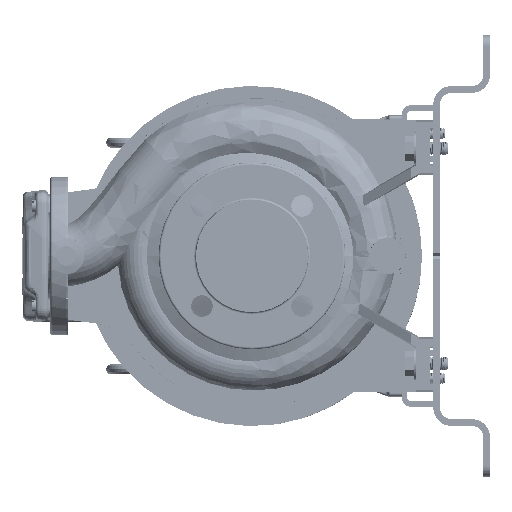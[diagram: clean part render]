
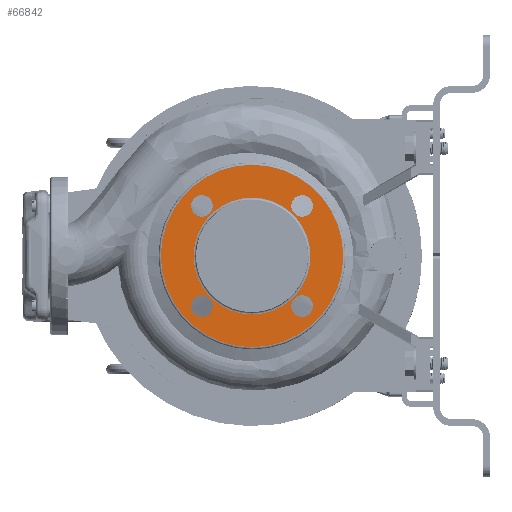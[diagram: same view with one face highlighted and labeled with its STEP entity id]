
A CAD part, left-side view. The second image highlights one B-rep face of the part: STEP entity #66842.
In plain terms, the highlighted planar face has unit normal (-1, 0, 0).
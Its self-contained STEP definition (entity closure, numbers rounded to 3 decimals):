
#1223 = EDGE_LOOP ( 'NONE', ( #149217, #159434 ) ) ;
#1715 = AXIS2_PLACEMENT_3D ( 'NONE', #159250, #184959, #44359 ) ;
#2583 = CARTESIAN_POINT ( 'NONE',  ( -114.905, 125.186, 358.538 ) ) ;
#4590 = DIRECTION ( 'NONE',  ( -1., 0., 0. ) ) ;
#5026 = CIRCLE ( 'NONE', #29267, 80.5 ) ;
#5212 = AXIS2_PLACEMENT_3D ( 'NONE', #135622, #4590, #52036 ) ;
#5546 = ORIENTED_EDGE ( 'NONE', *, *, #175534, .F. ) ;
#6673 = AXIS2_PLACEMENT_3D ( 'NONE', #127612, #69747, #139941 ) ;
#7199 = FACE_BOUND ( 'NONE', #1223, .T. ) ;
#7547 = ORIENTED_EDGE ( 'NONE', *, *, #137613, .F. ) ;
#9240 = CARTESIAN_POINT ( 'NONE',  ( -114.905, 169.38, 314.344 ) ) ;
#9351 = CARTESIAN_POINT ( 'NONE',  ( -114.905, 115.686, 270.15 ) ) ;
#10959 = ORIENTED_EDGE ( 'NONE', *, *, #140350, .F. ) ;
#11175 = EDGE_LOOP ( 'NONE', ( #31072, #7547 ) ) ;
#11625 = VERTEX_POINT ( 'NONE', #110824 ) ;
#12388 = DIRECTION ( 'NONE',  ( 0., 0., -1. ) ) ;
#15288 = DIRECTION ( 'NONE',  ( -1., 0., 0. ) ) ;
#15363 = ORIENTED_EDGE ( 'NONE', *, *, #85586, .F. ) ;
#15424 = EDGE_LOOP ( 'NONE', ( #169554, #124502 ) ) ;
#16763 = CARTESIAN_POINT ( 'NONE',  ( -114.905, 115.686, 358.538 ) ) ;
#17019 = VERTEX_POINT ( 'NONE', #9351 ) ;
#18454 = EDGE_CURVE ( 'NONE', #163283, #65936, #181130, .T. ) ;
#18724 = CIRCLE ( 'NONE', #6673, 9.5 ) ;
#20685 = DIRECTION ( 'NONE',  ( -1., 0., 0. ) ) ;
#21438 = FACE_BOUND ( 'NONE', #76475, .T. ) ;
#25124 = DIRECTION ( 'NONE',  ( 1., 0., 0. ) ) ;
#29267 = AXIS2_PLACEMENT_3D ( 'NONE', #9240, #20685, #150788 ) ;
#31072 = ORIENTED_EDGE ( 'NONE', *, *, #81771, .F. ) ;
#31689 = DIRECTION ( 'NONE',  ( 0., 0., 1. ) ) ;
#32350 = CARTESIAN_POINT ( 'NONE',  ( -114.905, 117.88, 314.344 ) ) ;
#32840 = CARTESIAN_POINT ( 'NONE',  ( -114.905, 204.075, 358.538 ) ) ;
#33560 = CARTESIAN_POINT ( 'NONE',  ( -114.905, 169.38, 314.344 ) ) ;
#37264 = DIRECTION ( 'NONE',  ( -1., 0., 0. ) ) ;
#37569 = FACE_BOUND ( 'NONE', #83051, .T. ) ;
#41554 = CIRCLE ( 'NONE', #5212, 9.5 ) ;
#42202 = CARTESIAN_POINT ( 'NONE',  ( -114.905, 134.686, 270.15 ) ) ;
#43271 = EDGE_CURVE ( 'NONE', #174472, #183327, #116493, .T. ) ;
#44359 = DIRECTION ( 'NONE',  ( 0., 1., 0. ) ) ;
#46178 = ORIENTED_EDGE ( 'NONE', *, *, #95811, .F. ) ;
#48252 = DIRECTION ( 'NONE',  ( 0., -1., 0. ) ) ;
#50461 = CARTESIAN_POINT ( 'NONE',  ( -114.905, 134.686, 358.538 ) ) ;
#51863 = CARTESIAN_POINT ( 'NONE',  ( -114.905, 220.88, 314.344 ) ) ;
#51992 = AXIS2_PLACEMENT_3D ( 'NONE', #51863, #25124, #152489 ) ;
#52036 = DIRECTION ( 'NONE',  ( 0., 0., -1. ) ) ;
#54964 = DIRECTION ( 'NONE',  ( 0., 1., 0. ) ) ;
#57184 = CARTESIAN_POINT ( 'NONE',  ( -114.905, 169.38, 314.344 ) ) ;
#60269 = AXIS2_PLACEMENT_3D ( 'NONE', #90488, #64821, #79062 ) ;
#62881 = AXIS2_PLACEMENT_3D ( 'NONE', #66190, #124085, #181995 ) ;
#63459 = DIRECTION ( 'NONE',  ( -1., 0., 0. ) ) ;
#64821 = DIRECTION ( 'NONE',  ( -1., 0., 0. ) ) ;
#65936 = VERTEX_POINT ( 'NONE', #123706 ) ;
#66118 = FACE_BOUND ( 'NONE', #11175, .T. ) ;
#66190 = CARTESIAN_POINT ( 'NONE',  ( -114.905, 169.38, 314.344 ) ) ;
#66842 = ADVANCED_FACE ( 'NONE', ( #111599, #21438, #37569, #7199, #66118, #125865 ), #140063, .F. ) ;
#69747 = DIRECTION ( 'NONE',  ( -1., 0., 0. ) ) ;
#72976 = EDGE_LOOP ( 'NONE', ( #46178, #162795 ) ) ;
#76475 = EDGE_LOOP ( 'NONE', ( #10959, #15363 ) ) ;
#79062 = DIRECTION ( 'NONE',  ( 0., -1., 0. ) ) ;
#79467 = ORIENTED_EDGE ( 'NONE', *, *, #43271, .F. ) ;
#79609 = VERTEX_POINT ( 'NONE', #42202 ) ;
#80969 = VERTEX_POINT ( 'NONE', #50461 ) ;
#81771 = EDGE_CURVE ( 'NONE', #164487, #98368, #91514, .T. ) ;
#82972 = CARTESIAN_POINT ( 'NONE',  ( -114.905, 88.88, 314.344 ) ) ;
#83051 = EDGE_LOOP ( 'NONE', ( #79467, #5546 ) ) ;
#85586 = EDGE_CURVE ( 'NONE', #79609, #17019, #138100, .T. ) ;
#85787 = VERTEX_POINT ( 'NONE', #16763 ) ;
#88683 = CARTESIAN_POINT ( 'NONE',  ( -114.905, 213.575, 270.15 ) ) ;
#89227 = CIRCLE ( 'NONE', #149952, 9.5 ) ;
#90488 = CARTESIAN_POINT ( 'NONE',  ( -114.905, 213.575, 358.538 ) ) ;
#91514 = CIRCLE ( 'NONE', #110066, 51.5 ) ;
#95218 = DIRECTION ( 'NONE',  ( 0., -1., 0. ) ) ;
#95811 = EDGE_CURVE ( 'NONE', #85787, #80969, #89227, .T. ) ;
#98368 = VERTEX_POINT ( 'NONE', #116190 ) ;
#101590 = AXIS2_PLACEMENT_3D ( 'NONE', #145959, #127988, #54964 ) ;
#102671 = DIRECTION ( 'NONE',  ( 0., -1., 0. ) ) ;
#104314 = AXIS2_PLACEMENT_3D ( 'NONE', #88683, #131411, #31689 ) ;
#110066 = AXIS2_PLACEMENT_3D ( 'NONE', #57184, #15288, #102671 ) ;
#110824 = CARTESIAN_POINT ( 'NONE',  ( -114.905, 223.075, 358.538 ) ) ;
#111599 = FACE_BOUND ( 'NONE', #72976, .T. ) ;
#113046 = CIRCLE ( 'NONE', #182706, 9.5 ) ;
#116190 = CARTESIAN_POINT ( 'NONE',  ( -114.905, 220.88, 314.344 ) ) ;
#116493 = CIRCLE ( 'NONE', #104314, 9.5 ) ;
#117796 = CIRCLE ( 'NONE', #60269, 9.5 ) ;
#118907 = AXIS2_PLACEMENT_3D ( 'NONE', #33560, #37264, #95218 ) ;
#120112 = EDGE_CURVE ( 'NONE', #65936, #163283, #5026, .T. ) ;
#123706 = CARTESIAN_POINT ( 'NONE',  ( -114.905, 249.88, 314.344 ) ) ;
#124085 = DIRECTION ( 'NONE',  ( -1., 0., 0. ) ) ;
#124350 = CARTESIAN_POINT ( 'NONE',  ( -114.905, 204.075, 270.15 ) ) ;
#124502 = ORIENTED_EDGE ( 'NONE', *, *, #120112, .T. ) ;
#125865 = FACE_OUTER_BOUND ( 'NONE', #15424, .T. ) ;
#126606 = VERTEX_POINT ( 'NONE', #32840 ) ;
#127612 = CARTESIAN_POINT ( 'NONE',  ( -114.905, 213.575, 270.15 ) ) ;
#127988 = DIRECTION ( 'NONE',  ( -1., 0., 0. ) ) ;
#128015 = CIRCLE ( 'NONE', #118907, 51.5 ) ;
#129367 = EDGE_CURVE ( 'NONE', #11625, #126606, #117796, .T. ) ;
#131411 = DIRECTION ( 'NONE',  ( -1., 0., 0. ) ) ;
#135622 = CARTESIAN_POINT ( 'NONE',  ( -114.905, 125.186, 358.538 ) ) ;
#137613 = EDGE_CURVE ( 'NONE', #98368, #164487, #128015, .T. ) ;
#138100 = CIRCLE ( 'NONE', #1715, 9.5 ) ;
#139941 = DIRECTION ( 'NONE',  ( 0., 0., 1. ) ) ;
#140063 = PLANE ( 'NONE',  #51992 ) ;
#140350 = EDGE_CURVE ( 'NONE', #17019, #79609, #183438, .T. ) ;
#144909 = EDGE_CURVE ( 'NONE', #126606, #11625, #113046, .T. ) ;
#145959 = CARTESIAN_POINT ( 'NONE',  ( -114.905, 125.186, 270.15 ) ) ;
#149217 = ORIENTED_EDGE ( 'NONE', *, *, #144909, .F. ) ;
#149952 = AXIS2_PLACEMENT_3D ( 'NONE', #2583, #175407, #12388 ) ;
#150788 = DIRECTION ( 'NONE',  ( 0., -1., 0. ) ) ;
#152489 = DIRECTION ( 'NONE',  ( 0., 1., 0. ) ) ;
#159250 = CARTESIAN_POINT ( 'NONE',  ( -114.905, 125.186, 270.15 ) ) ;
#159434 = ORIENTED_EDGE ( 'NONE', *, *, #129367, .F. ) ;
#162795 = ORIENTED_EDGE ( 'NONE', *, *, #186367, .F. ) ;
#163283 = VERTEX_POINT ( 'NONE', #82972 ) ;
#164046 = CARTESIAN_POINT ( 'NONE',  ( -114.905, 213.575, 358.538 ) ) ;
#164487 = VERTEX_POINT ( 'NONE', #32350 ) ;
#169554 = ORIENTED_EDGE ( 'NONE', *, *, #18454, .T. ) ;
#174472 = VERTEX_POINT ( 'NONE', #124350 ) ;
#175407 = DIRECTION ( 'NONE',  ( -1., 0., 0. ) ) ;
#175534 = EDGE_CURVE ( 'NONE', #183327, #174472, #18724, .T. ) ;
#181130 = CIRCLE ( 'NONE', #62881, 80.5 ) ;
#181529 = CARTESIAN_POINT ( 'NONE',  ( -114.905, 223.075, 270.15 ) ) ;
#181995 = DIRECTION ( 'NONE',  ( 0., -1., 0. ) ) ;
#182706 = AXIS2_PLACEMENT_3D ( 'NONE', #164046, #63459, #48252 ) ;
#183327 = VERTEX_POINT ( 'NONE', #181529 ) ;
#183438 = CIRCLE ( 'NONE', #101590, 9.5 ) ;
#184959 = DIRECTION ( 'NONE',  ( -1., 0., 0. ) ) ;
#186367 = EDGE_CURVE ( 'NONE', #80969, #85787, #41554, .T. ) ;
